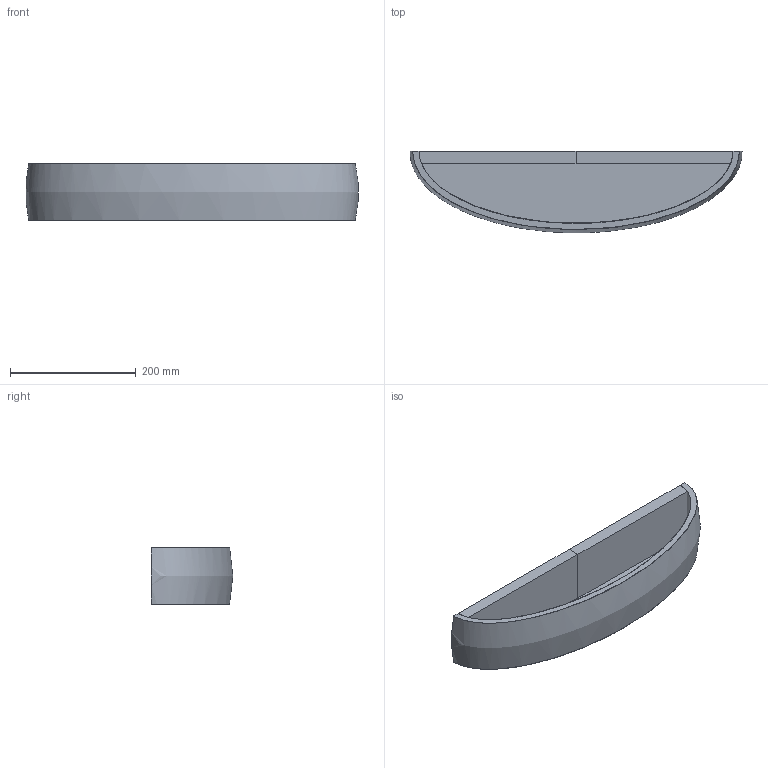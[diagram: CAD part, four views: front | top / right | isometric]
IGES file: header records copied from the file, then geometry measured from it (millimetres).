
Global section: file name: C:\Users\EQUIPO\Desktop\COLECCIONES ACB MODELADAS 3D OK\ALBA\alba-16-3386-53-e14 (IGES).igs; native system: Rhinoceros ( Oct  8 2013 ); preprocessor: Trout Lake IGES 012 Oct  8 2013; date: 190206.185940; units: millimetre
Bounding box: 528.8 x 129.92 x 90 mm (x, y, z)
Surface area: 316406.1 mm2 (no closed solid volume)
Topology: 0 solids, 0 shells, 26 faces, 303 edges, 301 vertices
Faces by surface type: bspline 26
